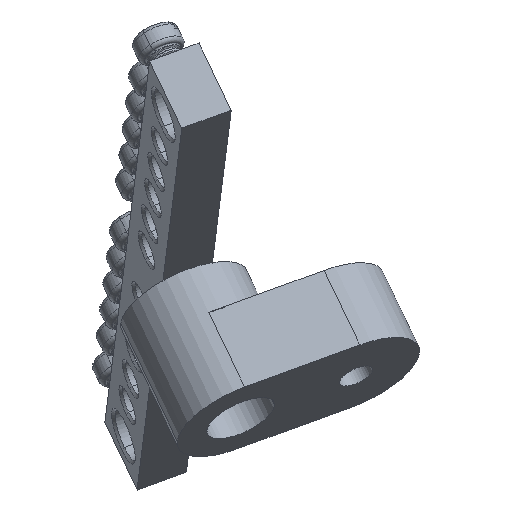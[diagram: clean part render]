
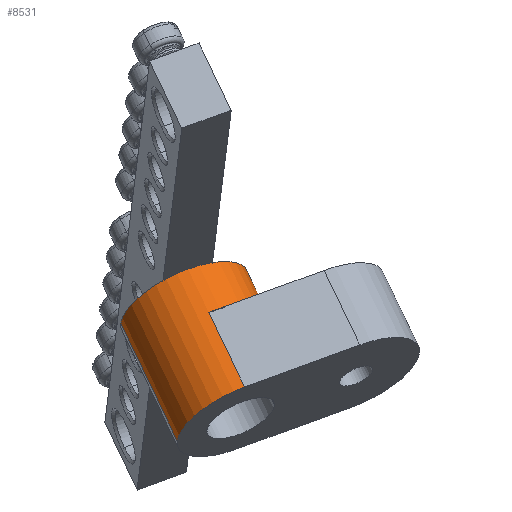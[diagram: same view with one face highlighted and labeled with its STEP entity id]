
A CAD part, isometric view. The second image highlights one B-rep face of the part: STEP entity #8531.
In plain terms, the highlighted cylindrical face has radius 7.7 mm (diameter 15.4 mm), a partial arc.
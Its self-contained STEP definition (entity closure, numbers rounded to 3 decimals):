
#14 = DIRECTION ( 'NONE',  ( 1., 0., 0. ) ) ;
#107 = ORIENTED_EDGE ( 'NONE', *, *, #5715, .F. ) ;
#534 = DIRECTION ( 'NONE',  ( 1., 0., 0. ) ) ;
#535 = ORIENTED_EDGE ( 'NONE', *, *, #8340, .T. ) ;
#586 = ORIENTED_EDGE ( 'NONE', *, *, #1829, .T. ) ;
#1050 = LINE ( 'NONE', #7174, #4562 ) ;
#1202 = AXIS2_PLACEMENT_3D ( 'NONE', #3357, #8267, #4037 ) ;
#1454 = DIRECTION ( 'NONE',  ( -1., 0., 0. ) ) ;
#1630 = VECTOR ( 'NONE', #8103, 1000. ) ;
#1829 = EDGE_CURVE ( 'NONE', #4092, #4158, #2947, .T. ) ;
#1948 = FACE_OUTER_BOUND ( 'NONE', #5127, .T. ) ;
#2048 = VERTEX_POINT ( 'NONE', #3068 ) ;
#2071 = CARTESIAN_POINT ( 'NONE',  ( -7.7, 0., 15.8 ) ) ;
#2238 = AXIS2_PLACEMENT_3D ( 'NONE', #8962, #4766, #534 ) ;
#2323 = VERTEX_POINT ( 'NONE', #4758 ) ;
#2583 = EDGE_CURVE ( 'NONE', #3344, #3956, #1050, .T. ) ;
#2652 = ORIENTED_EDGE ( 'NONE', *, *, #2583, .T. ) ;
#2820 = CARTESIAN_POINT ( 'NONE',  ( -7.7, 0., 0. ) ) ;
#2947 = CIRCLE ( 'NONE', #8704, 7.7 ) ;
#3068 = CARTESIAN_POINT ( 'NONE',  ( 7.7, 0., 15.8 ) ) ;
#3344 = VERTEX_POINT ( 'NONE', #2071 ) ;
#3357 = CARTESIAN_POINT ( 'NONE',  ( 0., 0., 0. ) ) ;
#3742 = ORIENTED_EDGE ( 'NONE', *, *, #6918, .F. ) ;
#3956 = VERTEX_POINT ( 'NONE', #2820 ) ;
#4037 = DIRECTION ( 'NONE',  ( 1., 0., 0. ) ) ;
#4092 = VERTEX_POINT ( 'NONE', #6507 ) ;
#4158 = VERTEX_POINT ( 'NONE', #8497 ) ;
#4221 = DIRECTION ( 'NONE',  ( 0., 0., 1. ) ) ;
#4224 = CARTESIAN_POINT ( 'NONE',  ( 0., 0., 10. ) ) ;
#4354 = DIRECTION ( 'NONE',  ( 0., 0., -1. ) ) ;
#4562 = VECTOR ( 'NONE', #4354, 1000. ) ;
#4582 = CARTESIAN_POINT ( 'NONE',  ( 0., -7.7, 10. ) ) ;
#4660 = LINE ( 'NONE', #6922, #8180 ) ;
#4758 = CARTESIAN_POINT ( 'NONE',  ( 0., -7.7, 0. ) ) ;
#4766 = DIRECTION ( 'NONE',  ( 0., 0., 1. ) ) ;
#5127 = EDGE_LOOP ( 'NONE', ( #3742, #107, #2652, #535, #5223, #586 ) ) ;
#5223 = ORIENTED_EDGE ( 'NONE', *, *, #8289, .F. ) ;
#5673 = DIRECTION ( 'NONE',  ( 0., 0., -1. ) ) ;
#5715 = EDGE_CURVE ( 'NONE', #3344, #2048, #7958, .T. ) ;
#6507 = CARTESIAN_POINT ( 'NONE',  ( 0., -7.7, 10. ) ) ;
#6601 = CIRCLE ( 'NONE', #1202, 7.7 ) ;
#6918 = EDGE_CURVE ( 'NONE', #2048, #4158, #4660, .T. ) ;
#6922 = CARTESIAN_POINT ( 'NONE',  ( 7.7, 0., 10. ) ) ;
#7174 = CARTESIAN_POINT ( 'NONE',  ( -7.7, 0., 10. ) ) ;
#7336 = AXIS2_PLACEMENT_3D ( 'NONE', #4224, #5673, #1454 ) ;
#7355 = CYLINDRICAL_SURFACE ( 'NONE', #7336, 7.7 ) ;
#7619 = DIRECTION ( 'NONE',  ( 0., 0., -1. ) ) ;
#7958 = CIRCLE ( 'NONE', #2238, 7.7 ) ;
#8103 = DIRECTION ( 'NONE',  ( 0., 0., -1. ) ) ;
#8180 = VECTOR ( 'NONE', #7619, 1000. ) ;
#8267 = DIRECTION ( 'NONE',  ( 0., 0., 1. ) ) ;
#8289 = EDGE_CURVE ( 'NONE', #4092, #2323, #8875, .T. ) ;
#8340 = EDGE_CURVE ( 'NONE', #3956, #2323, #6601, .T. ) ;
#8440 = CARTESIAN_POINT ( 'NONE',  ( 0., 0., 10. ) ) ;
#8497 = CARTESIAN_POINT ( 'NONE',  ( 7.7, 0., 10. ) ) ;
#8531 = ADVANCED_FACE ( 'NONE', ( #1948 ), #7355, .T. ) ;
#8704 = AXIS2_PLACEMENT_3D ( 'NONE', #8440, #4221, #14 ) ;
#8875 = LINE ( 'NONE', #4582, #1630 ) ;
#8962 = CARTESIAN_POINT ( 'NONE',  ( 0., 0., 15.8 ) ) ;
